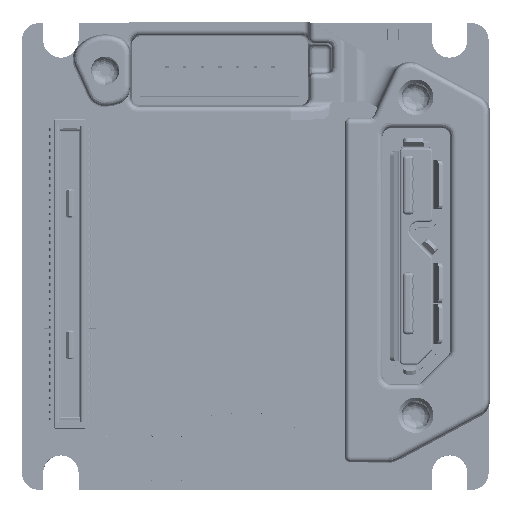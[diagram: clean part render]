
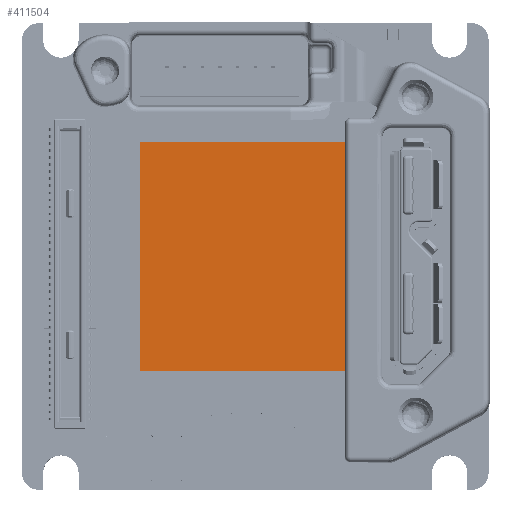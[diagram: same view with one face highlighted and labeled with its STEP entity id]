
A CAD part, top view. The second image highlights one B-rep face of the part: STEP entity #411504.
In plain terms, the highlighted planar face has unit normal (0, 0, 1).
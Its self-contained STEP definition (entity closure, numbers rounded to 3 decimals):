
#5225 = EDGE_LOOP ( 'NONE', ( #88856, #135337, #182509, #49984 ) ) ;
#9868 = VERTEX_POINT ( 'NONE', #289277 ) ;
#25540 = DIRECTION ( 'NONE',  ( 1., 0., 0. ) ) ;
#49984 = ORIENTED_EDGE ( 'NONE', *, *, #162905, .F. ) ;
#65214 = PLANE ( 'NONE',  #170435 ) ;
#88856 = ORIENTED_EDGE ( 'NONE', *, *, #398441, .F. ) ;
#129357 = CARTESIAN_POINT ( 'NONE',  ( 6.5, 6.5, 6.162 ) ) ;
#129748 = VECTOR ( 'NONE', #424624, 1000. ) ;
#130901 = VERTEX_POINT ( 'NONE', #129357 ) ;
#131604 = VECTOR ( 'NONE', #490302, 1000. ) ;
#135337 = ORIENTED_EDGE ( 'NONE', *, *, #273467, .F. ) ;
#137665 = LINE ( 'NONE', #488089, #551751 ) ;
#162905 = EDGE_CURVE ( 'NONE', #9868, #174500, #481754, .T. ) ;
#170435 = AXIS2_PLACEMENT_3D ( 'NONE', #374855, #500414, #506187 ) ;
#174500 = VERTEX_POINT ( 'NONE', #568187 ) ;
#182509 = ORIENTED_EDGE ( 'NONE', *, *, #424766, .F. ) ;
#212271 = VERTEX_POINT ( 'NONE', #427117 ) ;
#243743 = LINE ( 'NONE', #380893, #129748 ) ;
#253216 = CARTESIAN_POINT ( 'NONE',  ( -6.5, 6.5, 6.162 ) ) ;
#273467 = EDGE_CURVE ( 'NONE', #130901, #212271, #243743, .T. ) ;
#289277 = CARTESIAN_POINT ( 'NONE',  ( -6.5, -6.5, 6.162 ) ) ;
#300795 = CARTESIAN_POINT ( 'NONE',  ( -6.5, -6.5, 6.162 ) ) ;
#312864 = DIRECTION ( 'NONE',  ( -1., 0., 0. ) ) ;
#374855 = CARTESIAN_POINT ( 'NONE',  ( 0., 0., 6.162 ) ) ;
#380893 = CARTESIAN_POINT ( 'NONE',  ( 6.5, 6.5, 6.162 ) ) ;
#398441 = EDGE_CURVE ( 'NONE', #212271, #9868, #137665, .T. ) ;
#411504 = ADVANCED_FACE ( 'NONE', ( #509054 ), #65214, .F. ) ;
#424624 = DIRECTION ( 'NONE',  ( 0., -1., 0. ) ) ;
#424766 = EDGE_CURVE ( 'NONE', #174500, #130901, #477975, .T. ) ;
#427117 = CARTESIAN_POINT ( 'NONE',  ( 6.5, -6.5, 6.162 ) ) ;
#477975 = LINE ( 'NONE', #253216, #540536 ) ;
#481754 = LINE ( 'NONE', #300795, #131604 ) ;
#488089 = CARTESIAN_POINT ( 'NONE',  ( 6.5, -6.5, 6.162 ) ) ;
#490302 = DIRECTION ( 'NONE',  ( 0., 1., 0. ) ) ;
#500414 = DIRECTION ( 'NONE',  ( 0., 0., -1. ) ) ;
#506187 = DIRECTION ( 'NONE',  ( 0., -1., 0. ) ) ;
#509054 = FACE_OUTER_BOUND ( 'NONE', #5225, .T. ) ;
#540536 = VECTOR ( 'NONE', #25540, 1000. ) ;
#551751 = VECTOR ( 'NONE', #312864, 1000. ) ;
#568187 = CARTESIAN_POINT ( 'NONE',  ( -6.5, 6.5, 6.162 ) ) ;
